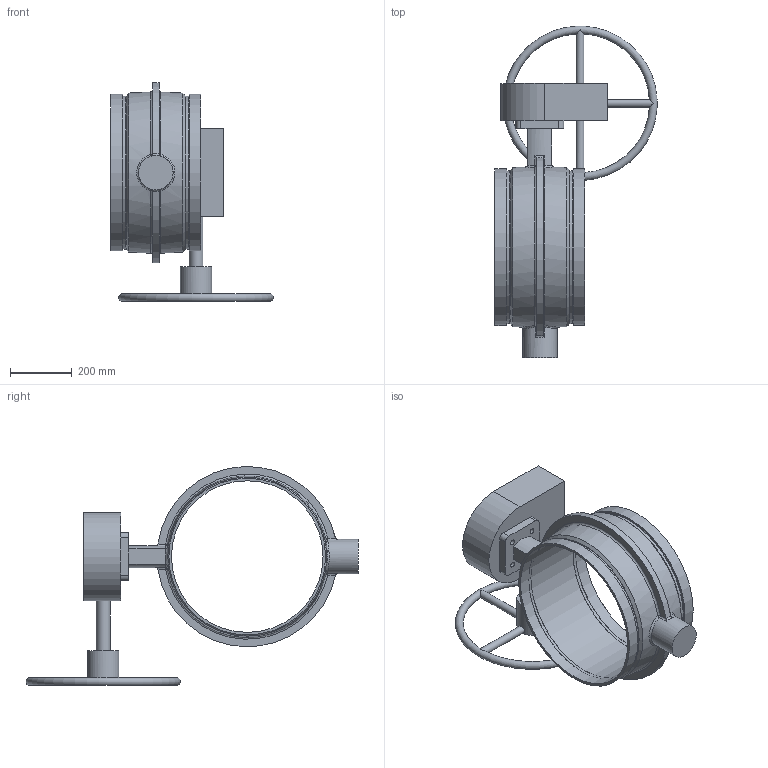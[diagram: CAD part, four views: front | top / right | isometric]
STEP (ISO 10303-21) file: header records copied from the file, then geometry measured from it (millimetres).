
FILE_DESCRIPTION(/* description */ (''),/* implementation_level */ '2;1');
FILE_NAME(/* name */ 'C:\Files for Export\W761\STEP\Victaulic_IPS-AGS_Vlv Btfl Vic-300 MS GO_Series W761\Victaulic_IPS-AGS_Vlv Btfl Vic-300 MS GO_Series W761 (AGS)_20 (500).stp',/* time_stamp */ '2024-11-19T14:45:03+01:00',/* author */ ('vjadhav'),/* organization */ (''),/* preprocessor_version */ 'ST-DEVELOPER v18.1',/* originating_system */ 'Autodesk Inventor 2020',/* authorisation */ '');
FILE_SCHEMA (('AUTOMOTIVE_DESIGN { 1 0 10303 214 3 1 1 }'));
Length unit declared in the file: inch
Products named in the file (1): W761-20.0
Bounding box: 526.41 x 1075.82 x 709.51 mm (x, y, z)
Volume: 21603907.1 mm3; surface area: 1707461.3 mm2
Topology: 1 solids, 1 shells, 93 faces, 259 edges, 170 vertices
Faces by surface type: cylinder 33, plane 27, torus 11, bspline 10, sphere 8, cone 4
Full cylindrical faces by diameter (mm): 17.069 x4, 24.994 x4, 44.45 x1, 101.6 x1, 111.76 x1, 491.236 x1, 495.3 x2, 508 x2
Entity records: 3865 total; most frequent: CARTESIAN_POINT 1459, ORIENTED_EDGE 520, DIRECTION 467, EDGE_CURVE 260, AXIS2_PLACEMENT_3D 199, VERTEX_POINT 171, CIRCLE 115, EDGE_LOOP 105
